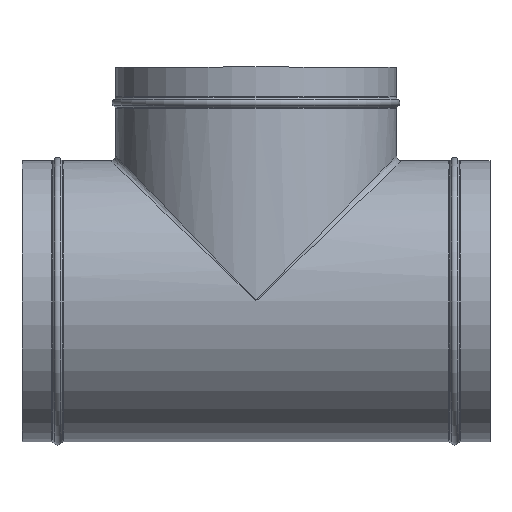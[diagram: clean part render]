
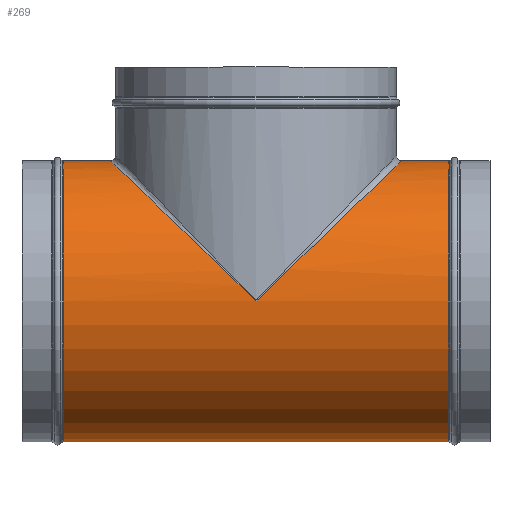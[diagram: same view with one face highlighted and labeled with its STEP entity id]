
A CAD part, top view. The second image highlights one B-rep face of the part: STEP entity #269.
In plain terms, the highlighted cylindrical face has radius 136.5 mm (diameter 273 mm), a partial arc.
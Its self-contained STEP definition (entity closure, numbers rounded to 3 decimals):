
#136=B_SPLINE_CURVE_WITH_KNOTS('',3,(#3673,#3674,#3675,#3676,#3677,#3678,
#3679,#3680,#3681,#3682,#3683,#3684,#3685,#3686),.UNSPECIFIED.,.F.,.F.,(4,
2,2,2,2,2,4),(0.,0.25,0.5,0.625,0.75,0.875,1.),.UNSPECIFIED.);
#139=B_SPLINE_CURVE_WITH_KNOTS('',3,(#3926,#3927,#3928,#3929,#3930,#3931,
#3932,#3933,#3934,#3935,#3936,#3937,#3938,#3939),.UNSPECIFIED.,.F.,.F.,(4,
2,2,2,2,2,4),(0.,0.125,0.25,0.375,0.5,0.75,1.),.UNSPECIFIED.);
#269=ADVANCED_FACE('',(#382),#321,.T.);
#321=CYLINDRICAL_SURFACE('',#1589,136.5);
#382=FACE_OUTER_BOUND('',#478,.T.);
#478=EDGE_LOOP('',(#866,#867,#868,#869,#870,#871,#872));
#544=LINE('',#3461,#592);
#545=LINE('',#3463,#593);
#546=LINE('',#3467,#594);
#592=VECTOR('',#1942,1.);
#593=VECTOR('',#1943,1.);
#594=VECTOR('',#1946,1.);
#866=ORIENTED_EDGE('',*,*,#1265,.F.);
#867=ORIENTED_EDGE('',*,*,#1253,.F.);
#868=ORIENTED_EDGE('',*,*,#1266,.F.);
#869=ORIENTED_EDGE('',*,*,#1251,.T.);
#870=ORIENTED_EDGE('',*,*,#1247,.T.);
#871=ORIENTED_EDGE('',*,*,#1250,.F.);
#872=ORIENTED_EDGE('',*,*,#1258,.F.);
#1087=VERTEX_POINT('',#3454);
#1088=VERTEX_POINT('',#3456);
#1089=VERTEX_POINT('',#3462);
#1090=VERTEX_POINT('',#3464);
#1091=VERTEX_POINT('',#3466);
#1092=VERTEX_POINT('',#3468);
#1095=VERTEX_POINT('',#3687);
#1247=EDGE_CURVE('',#1088,#1087,#1404,.T.);
#1250=EDGE_CURVE('',#1089,#1087,#544,.T.);
#1251=EDGE_CURVE('',#1090,#1088,#545,.T.);
#1253=EDGE_CURVE('',#1091,#1092,#546,.T.);
#1258=EDGE_CURVE('',#1095,#1089,#136,.T.);
#1265=EDGE_CURVE('',#1092,#1095,#139,.T.);
#1266=EDGE_CURVE('',#1090,#1091,#1411,.T.);
#1404=CIRCLE('',#1577,136.5);
#1411=CIRCLE('',#1588,136.5);
#1577=AXIS2_PLACEMENT_3D('',#3455,#1932,#1933);
#1588=AXIS2_PLACEMENT_3D('',#4024,#1959,#1960);
#1589=AXIS2_PLACEMENT_3D('',#4025,#1961,#1962);
#1932=DIRECTION('',(-1.,0.,0.));
#1933=DIRECTION('',(0.,-1.,0.));
#1942=DIRECTION('',(1.,0.,0.));
#1943=DIRECTION('',(1.,0.,0.));
#1946=DIRECTION('',(1.,0.,0.));
#1959=DIRECTION('',(-1.,0.,0.));
#1960=DIRECTION('',(0.,-1.,0.));
#1961=DIRECTION('',(1.,0.,0.));
#1962=DIRECTION('',(0.,1.,0.));
#3454=CARTESIAN_POINT('',(187.429,128.463,0.));
#3455=CARTESIAN_POINT('',(187.429,-8.037,0.));
#3456=CARTESIAN_POINT('',(187.429,-144.537,0.));
#3461=CARTESIAN_POINT('',(141.5,128.463,0.));
#3462=CARTESIAN_POINT('',(141.5,128.463,0.));
#3463=CARTESIAN_POINT('',(-187.429,-144.537,0.));
#3464=CARTESIAN_POINT('',(-187.429,-144.537,0.));
#3466=CARTESIAN_POINT('',(-187.429,128.463,0.));
#3467=CARTESIAN_POINT('',(-187.429,128.463,0.));
#3468=CARTESIAN_POINT('',(-141.5,128.463,0.));
#3673=CARTESIAN_POINT('',(0.,-8.036,136.5));
#3674=CARTESIAN_POINT('',(15.875,7.277,136.498));
#3675=CARTESIAN_POINT('',(31.723,22.565,133.955));
#3676=CARTESIAN_POINT('',(62.507,52.262,123.468));
#3677=CARTESIAN_POINT('',(77.462,66.688,115.522));
#3678=CARTESIAN_POINT('',(97.96,86.462,98.876));
#3679=CARTESIAN_POINT('',(104.462,92.734,92.534));
#3680=CARTESIAN_POINT('',(116.409,104.259,78.146));
#3681=CARTESIAN_POINT('',(121.857,109.514,70.093));
#3682=CARTESIAN_POINT('',(131.104,118.435,52.308));
#3683=CARTESIAN_POINT('',(134.896,122.093,42.566));
#3684=CARTESIAN_POINT('',(140.105,127.118,21.881));
#3685=CARTESIAN_POINT('',(141.5,128.463,10.944));
#3686=CARTESIAN_POINT('',(141.5,128.463,0.));
#3687=CARTESIAN_POINT('',(0.,-8.036,136.5));
#3926=CARTESIAN_POINT('',(-141.5,128.463,0.));
#3927=CARTESIAN_POINT('',(-141.5,128.463,10.944));
#3928=CARTESIAN_POINT('',(-140.104,127.117,21.887));
#3929=CARTESIAN_POINT('',(-134.895,122.092,42.567));
#3930=CARTESIAN_POINT('',(-131.103,118.434,52.31));
#3931=CARTESIAN_POINT('',(-121.856,109.514,70.094));
#3932=CARTESIAN_POINT('',(-116.41,104.26,78.146));
#3933=CARTESIAN_POINT('',(-104.462,92.735,92.533));
#3934=CARTESIAN_POINT('',(-97.96,86.463,98.876));
#3935=CARTESIAN_POINT('',(-77.463,66.69,115.522));
#3936=CARTESIAN_POINT('',(-62.509,52.264,123.467));
#3937=CARTESIAN_POINT('',(-31.723,22.566,133.954));
#3938=CARTESIAN_POINT('',(-15.879,7.282,136.497));
#3939=CARTESIAN_POINT('',(0.,-8.036,136.5));
#4024=CARTESIAN_POINT('',(-187.429,-8.037,0.));
#4025=CARTESIAN_POINT('',(-250.25,-8.037,0.));
